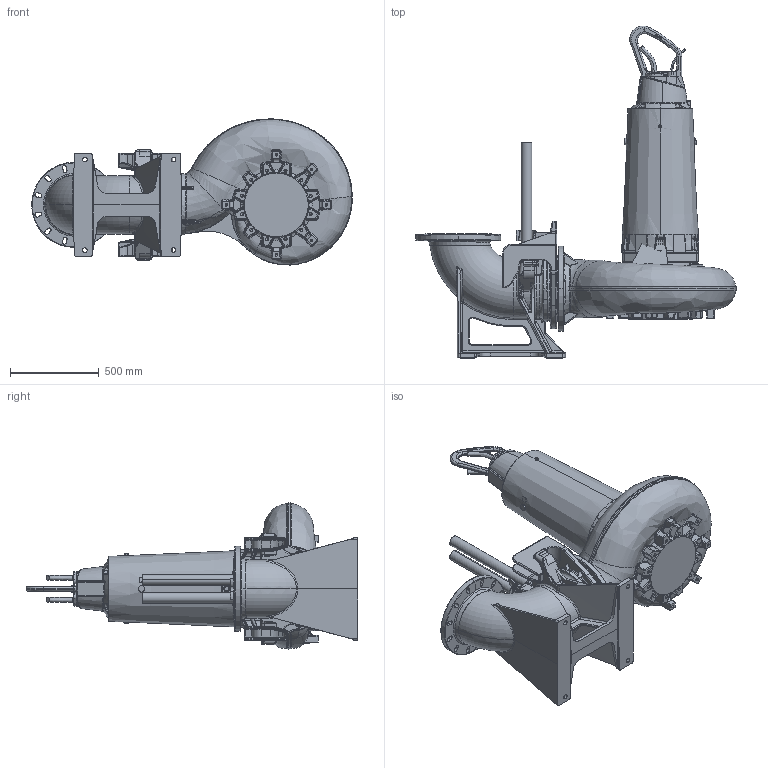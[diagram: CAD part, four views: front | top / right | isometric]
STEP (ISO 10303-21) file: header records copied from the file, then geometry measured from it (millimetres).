
FILE_DESCRIPTION (( 'STEP AP214' ), '1' );
FILE_NAME ('PE4_XFP300J-CH2_WET 2guide_B_NG2.STEP', '2017-03-15T09:56:30', ( '' ), ( '' ), 'SwSTEP 2.0', 'SolidWorks 2017', '' );
FILE_SCHEMA (( 'AUTOMOTIVE_DESIGN' ));
Length unit declared in the file: millimetre
Products named in the file (1): PE4_XFP300J-CH2_WET 2guide_B_NG2
Bounding box: 1808.43 x 1872.42 x 824.01 mm (x, y, z)
Volume: 371044895.9 mm3; surface area: 7582061.6 mm2
Topology: 4 solids, 10 shells, 4084 faces, 10140 edges, 5953 vertices
Faces by surface type: bspline 1345, cylinder 1106, plane 776, torus 392, cone 332, sphere 133
Entity records: 271937 total; most frequent: CARTESIAN_POINT 141855, ORIENTED_EDGE 19844, DIRECTION 15250, EDGE_CURVE 9922, AXIS2_PLACEMENT_3D 6178, VERTEX_POINT 5951, EDGE_LOOP 4293, UNCERTAINTY_MEASURE_WITH_UNIT 4090
